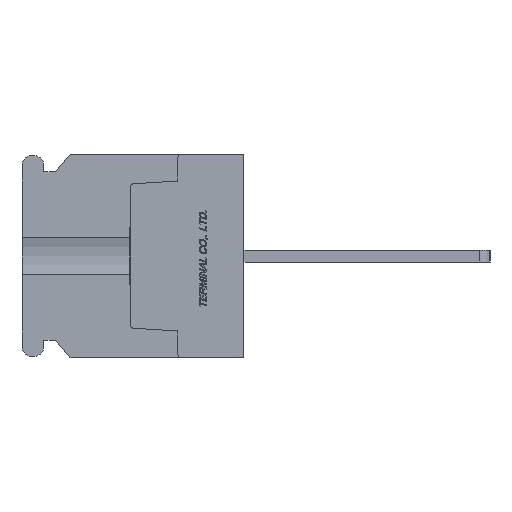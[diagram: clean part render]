
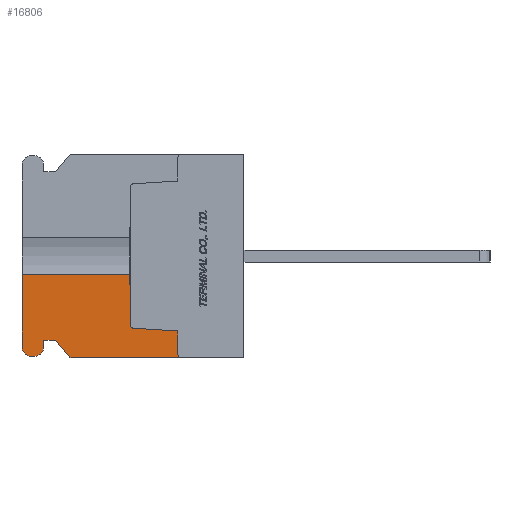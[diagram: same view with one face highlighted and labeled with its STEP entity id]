
A CAD part, left-side view. The second image highlights one B-rep face of the part: STEP entity #16806.
In plain terms, the highlighted planar face has unit normal (-1, 0, 0).
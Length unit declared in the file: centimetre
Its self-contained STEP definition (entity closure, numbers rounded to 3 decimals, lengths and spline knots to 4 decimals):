
#2064=VECTOR('',#20718,1.);
#2065=VECTOR('',#20719,1.);
#2066=VECTOR('',#20720,1.);
#2067=VECTOR('',#20723,1.);
#2068=VECTOR('',#20726,1.);
#2069=VECTOR('',#20727,1.);
#2070=VECTOR('',#20728,1.);
#2071=VECTOR('',#20729,1.);
#2072=VECTOR('',#20732,1.);
#2073=VECTOR('',#20733,1.);
#3869=LINE('',#26053,#2064);
#3870=LINE('',#26056,#2065);
#3871=LINE('',#26058,#2066);
#3872=LINE('',#26062,#2067);
#3873=LINE('',#26066,#2068);
#3874=LINE('',#26068,#2069);
#3875=LINE('',#26070,#2070);
#3876=LINE('',#26072,#2071);
#3877=LINE('',#26076,#2072);
#3878=LINE('',#26078,#2073);
#5636=VERTEX_POINT('',#26054);
#5637=VERTEX_POINT('',#26055);
#5638=VERTEX_POINT('',#26057);
#5639=VERTEX_POINT('',#26059);
#5640=VERTEX_POINT('',#26061);
#5641=VERTEX_POINT('',#26063);
#5642=VERTEX_POINT('',#26065);
#5643=VERTEX_POINT('',#26067);
#5644=VERTEX_POINT('',#26069);
#5645=VERTEX_POINT('',#26071);
#5646=VERTEX_POINT('',#26073);
#5647=VERTEX_POINT('',#26075);
#5648=VERTEX_POINT('',#26077);
#5649=VERTEX_POINT('',#26079);
#6378=CIRCLE('',#28771,0.075);
#6379=CIRCLE('',#28772,0.075);
#6380=CIRCLE('',#28773,0.03);
#6381=CIRCLE('',#28774,0.03);
#8367=EDGE_CURVE('',#5636,#5637,#3869,.T.);
#8368=EDGE_CURVE('',#5636,#5638,#3870,.T.);
#8369=EDGE_CURVE('',#5639,#5638,#3871,.T.);
#8370=EDGE_CURVE('',#5640,#5639,#6378,.T.);
#8371=EDGE_CURVE('',#5641,#5640,#3872,.T.);
#8372=EDGE_CURVE('',#5642,#5641,#6379,.T.);
#8373=EDGE_CURVE('',#5643,#5642,#3873,.T.);
#8374=EDGE_CURVE('',#5644,#5643,#3874,.T.);
#8375=EDGE_CURVE('',#5645,#5644,#3875,.T.);
#8376=EDGE_CURVE('',#5646,#5645,#3876,.T.);
#8377=EDGE_CURVE('',#5647,#5646,#6380,.T.);
#8378=EDGE_CURVE('',#5648,#5647,#3877,.T.);
#8379=EDGE_CURVE('',#5649,#5648,#3878,.T.);
#8380=EDGE_CURVE('',#5637,#5649,#6381,.T.);
#12758=ORIENTED_EDGE('',*,*,#8367,.F.);
#12759=ORIENTED_EDGE('',*,*,#8368,.T.);
#12760=ORIENTED_EDGE('',*,*,#8369,.F.);
#12761=ORIENTED_EDGE('',*,*,#8370,.F.);
#12762=ORIENTED_EDGE('',*,*,#8371,.F.);
#12763=ORIENTED_EDGE('',*,*,#8372,.F.);
#12764=ORIENTED_EDGE('',*,*,#8373,.F.);
#12765=ORIENTED_EDGE('',*,*,#8374,.F.);
#12766=ORIENTED_EDGE('',*,*,#8375,.F.);
#12767=ORIENTED_EDGE('',*,*,#8376,.F.);
#12768=ORIENTED_EDGE('',*,*,#8377,.F.);
#12769=ORIENTED_EDGE('',*,*,#8378,.F.);
#12770=ORIENTED_EDGE('',*,*,#8379,.F.);
#12771=ORIENTED_EDGE('',*,*,#8380,.F.);
#14809=EDGE_LOOP('',(#12758,#12759,#12760,#12761,#12762,#12763,#12764,#12765,
#12766,#12767,#12768,#12769,#12770,#12771));
#15845=FACE_BOUND('',#14809,.T.);
#16806=ADVANCED_FACE('',(#15845),#17504,.F.);
#17504=PLANE('',#28770);
#20717=DIRECTION('',(1.,0.,0.));
#20718=DIRECTION('',(0.,0.,-1.));
#20719=DIRECTION('',(0.,1.,0.));
#20720=DIRECTION('',(0.,0.,1.));
#20721=DIRECTION('',(1.,0.,0.));
#20722=DIRECTION('',(0.,0.,-0.075));
#20723=DIRECTION('',(0.,1.,0.));
#20724=DIRECTION('',(1.,0.,0.));
#20725=DIRECTION('',(0.,0.,-0.075));
#20726=DIRECTION('',(0.,0.,-1.));
#20727=DIRECTION('',(0.,1.,0.));
#20728=DIRECTION('',(0.,0.625,0.781));
#20729=DIRECTION('',(0.,1.,0.));
#20730=DIRECTION('',(-1.,0.,0.));
#20731=DIRECTION('',(0.,0.,0.03));
#20732=DIRECTION('',(0.,0.,-1.));
#20733=DIRECTION('',(0.,-0.998,-0.061));
#20734=DIRECTION('',(-1.,0.,0.));
#20735=DIRECTION('',(0.,0.,0.03));
#26052=CARTESIAN_POINT('',(-1.1,0.9454,0.));
#26053=CARTESIAN_POINT('',(-1.1,0.95,0.5718));
#26054=CARTESIAN_POINT('',(-1.1,0.95,-0.1521));
#26055=CARTESIAN_POINT('',(-1.1,0.95,-0.5718));
#26056=CARTESIAN_POINT('',(-1.1,1.4,-0.1521));
#26057=CARTESIAN_POINT('',(-1.1,1.85,-0.1521));
#26058=CARTESIAN_POINT('',(-1.1,1.85,-0.76));
#26059=CARTESIAN_POINT('',(-1.1,1.85,-0.76));
#26060=CARTESIAN_POINT('',(-1.1,1.775,-0.76));
#26061=CARTESIAN_POINT('',(-1.1,1.775,-0.835));
#26062=CARTESIAN_POINT('',(-1.1,1.745,-0.835));
#26063=CARTESIAN_POINT('',(-1.1,1.745,-0.835));
#26064=CARTESIAN_POINT('',(-1.1,1.745,-0.76));
#26065=CARTESIAN_POINT('',(-1.1,1.67,-0.76));
#26066=CARTESIAN_POINT('',(-1.1,1.67,-0.7));
#26067=CARTESIAN_POINT('',(-1.1,1.67,-0.7));
#26068=CARTESIAN_POINT('',(-1.1,1.57,-0.7));
#26069=CARTESIAN_POINT('',(-1.1,1.57,-0.7));
#26070=CARTESIAN_POINT('',(-1.1,1.45,-0.85));
#26071=CARTESIAN_POINT('',(-1.1,1.45,-0.85));
#26072=CARTESIAN_POINT('',(-1.1,0.,-0.85));
#26073=CARTESIAN_POINT('',(-1.1,0.52,-0.85));
#26074=CARTESIAN_POINT('',(-1.1,0.52,-0.82));
#26075=CARTESIAN_POINT('',(-1.1,0.55,-0.82));
#26076=CARTESIAN_POINT('',(-1.1,0.55,-0.6245));
#26077=CARTESIAN_POINT('',(-1.1,0.55,-0.6245));
#26078=CARTESIAN_POINT('',(-1.1,0.9218,-0.6017));
#26079=CARTESIAN_POINT('',(-1.1,0.9218,-0.6017));
#26080=CARTESIAN_POINT('',(-1.1,0.92,-0.5718));
#28770=AXIS2_PLACEMENT_3D('',#26052,#20717,$);
#28771=AXIS2_PLACEMENT_3D('',#26060,#20721,#20722);
#28772=AXIS2_PLACEMENT_3D('',#26064,#20724,#20725);
#28773=AXIS2_PLACEMENT_3D('',#26074,#20730,#20731);
#28774=AXIS2_PLACEMENT_3D('',#26080,#20734,#20735);
